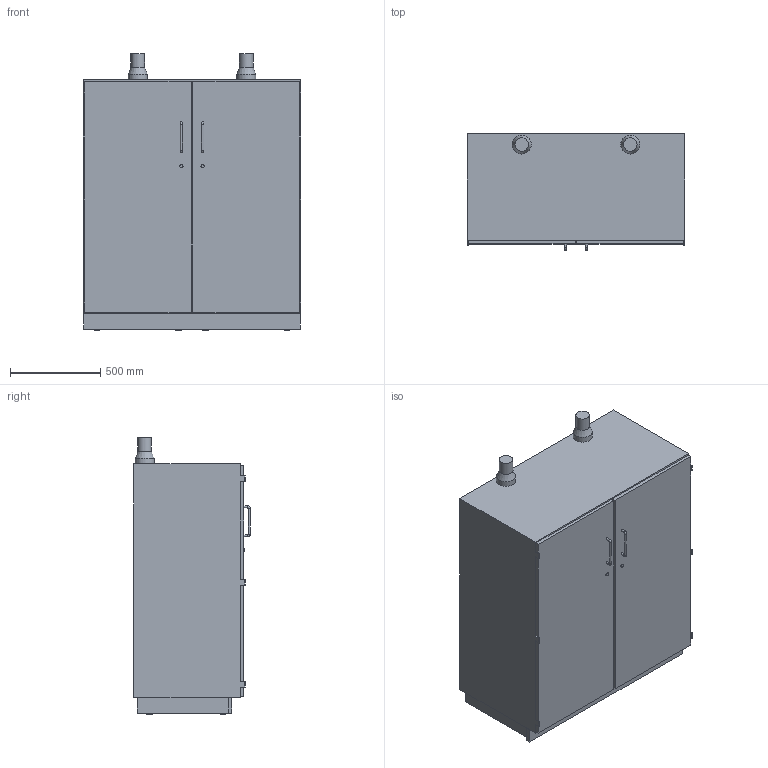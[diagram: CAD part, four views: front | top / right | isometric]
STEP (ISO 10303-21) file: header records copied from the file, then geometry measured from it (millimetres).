
FILE_DESCRIPTION(/* description */ ('Unknown'),/* implementation_level */ '2;1');
FILE_NAME(/* name */ 'ACID C pro XS_D00108903',/* time_stamp */ '2021-01-04T09:34:21+01:00',/* author */ ('Unknown'),/* organization */ ('Unknown'),/* preprocessor_version */ 'ST-DEVELOPER v16.7',/* originating_system */ 'Solid Edge',/* authorisation */ 'Unknown');
FILE_SCHEMA (('AUTOMOTIVE_DESIGN {1 0 10303 214 3 1 1}'));
Length unit declared in the file: millimetre
Products named in the file (1): ACID C pro XS_D00108903
Bounding box: 1200 x 644 x 1530 mm (x, y, z)
Volume: 949982390.3 mm3; surface area: 6725312.2 mm2
Topology: 1 solids, 1 shells, 101 faces, 250 edges, 164 vertices
Faces by surface type: plane 69, cylinder 26, torus 4, cone 2
Full cylindrical faces by diameter (mm): 12 x6, 18 x2, 30 x8, 75 x2, 105 x2
Entity records: 3546 total; most frequent: CARTESIAN_POINT 482, DIRECTION 476, ORIENTED_EDGE 440, EDGE_CURVE 220, LINE 168, VECTOR 168, VERTEX_POINT 160, AXIS2_PLACEMENT_3D 154
